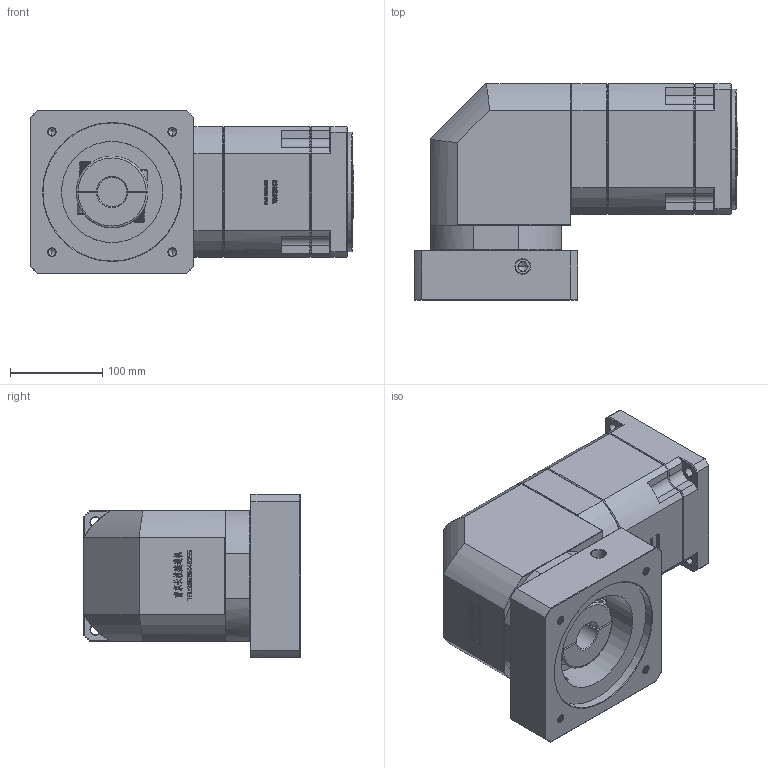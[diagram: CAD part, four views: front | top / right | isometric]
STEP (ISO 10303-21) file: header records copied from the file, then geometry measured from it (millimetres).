
FILE_DESCRIPTION (( 'STEP AP214' ), '1' );
FILE_NAME ('ZBR142A-K35-L3-32-150-185-M10.step', '2023-03-18T09:28:16', ( '' ), ( '' ), 'SwSTEP 2.0', 'SolidWorks 2016', '' );
FILE_SCHEMA (( 'AUTOMOTIVE_DESIGN' ));
Length unit declared in the file: millimetre
Products named in the file (1): ZBR142A-K35-L3-32-150-185-M10
Bounding box: 351.7 x 235 x 178 mm (x, y, z)
Volume: 7377624.3 mm3; surface area: 464882 mm2
Topology: 6 solids, 6 shells, 2879 faces, 7651 edges, 4920 vertices
Faces by surface type: plane 1545, bspline 589, cylinder 391, cone 334, torus 20
Entity records: 158482 total; most frequent: CARTESIAN_POINT 59794, ORIENTED_EDGE 15246, DIRECTION 11560, EDGE_CURVE 7623, LINE 5180, VECTOR 5180, VERTEX_POINT 4920, AXIS2_PLACEMENT_3D 3190
